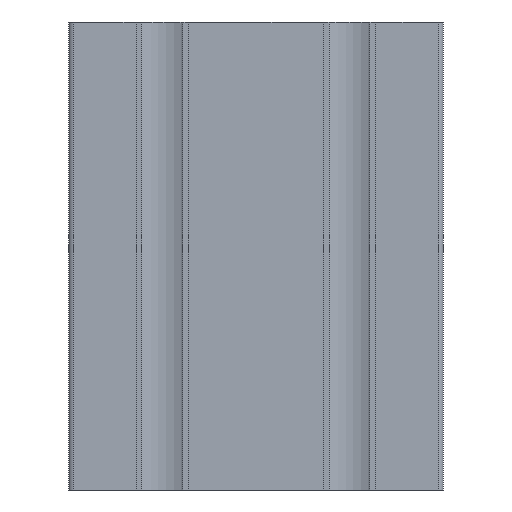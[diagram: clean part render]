
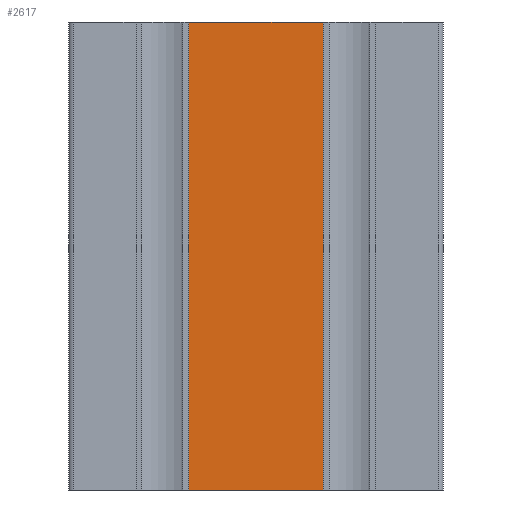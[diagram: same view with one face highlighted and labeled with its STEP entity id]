
A CAD part, front view. The second image highlights one B-rep face of the part: STEP entity #2617.
In plain terms, the highlighted planar face has unit normal (-0.001, -1, 0).
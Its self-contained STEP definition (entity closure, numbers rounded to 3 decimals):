
#233=FACE_OUTER_BOUND('',#367,.T.);
#367=EDGE_LOOP('',(#2031,#2032,#2033,#2034));
#629=LINE('',#4124,#937);
#630=LINE('',#4127,#938);
#631=LINE('',#4129,#939);
#632=LINE('',#4130,#940);
#937=VECTOR('',#3379,10.);
#938=VECTOR('',#3382,10.);
#939=VECTOR('',#3383,10.);
#940=VECTOR('',#3384,10.);
#1219=VERTEX_POINT('',#4120);
#1220=VERTEX_POINT('',#4122);
#1221=VERTEX_POINT('',#4126);
#1222=VERTEX_POINT('',#4128);
#1563=EDGE_CURVE('',#1219,#1220,#629,.T.);
#1564=EDGE_CURVE('',#1221,#1219,#630,.T.);
#1565=EDGE_CURVE('',#1222,#1220,#631,.T.);
#1566=EDGE_CURVE('',#1221,#1222,#632,.T.);
#2031=ORIENTED_EDGE('',*,*,#1564,.T.);
#2032=ORIENTED_EDGE('',*,*,#1563,.T.);
#2033=ORIENTED_EDGE('',*,*,#1565,.F.);
#2034=ORIENTED_EDGE('',*,*,#1566,.F.);
#2492=PLANE('',#2811);
#2617=ADVANCED_FACE('',(#233),#2492,.T.);
#2811=AXIS2_PLACEMENT_3D('',#4125,#3380,#3381);
#3379=DIRECTION('',(0.,0.,1.));
#3380=DIRECTION('center_axis',(0.,-1.,
0.));
#3381=DIRECTION('ref_axis',(1.,0.,0.));
#3382=DIRECTION('',(1.,0.,0.));
#3383=DIRECTION('',(1.,0.,0.));
#3384=DIRECTION('',(0.,0.,1.));
#4120=CARTESIAN_POINT('',(58.561,4.1,0.));
#4122=CARTESIAN_POINT('',(58.561,4.1,100.));
#4124=CARTESIAN_POINT('',(58.561,4.1,0.));
#4125=CARTESIAN_POINT('Origin',(29.775,4.114,0.));
#4126=CARTESIAN_POINT('',(29.775,4.114,0.));
#4127=CARTESIAN_POINT('',(29.775,4.114,0.));
#4128=CARTESIAN_POINT('',(29.775,4.114,100.));
#4129=CARTESIAN_POINT('',(29.775,4.114,100.));
#4130=CARTESIAN_POINT('',(29.775,4.114,0.));
